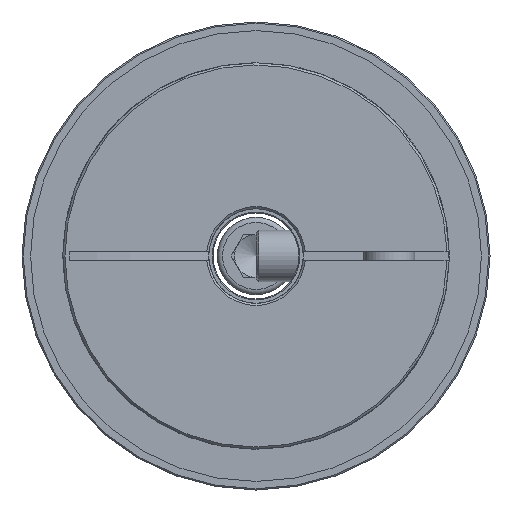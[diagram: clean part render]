
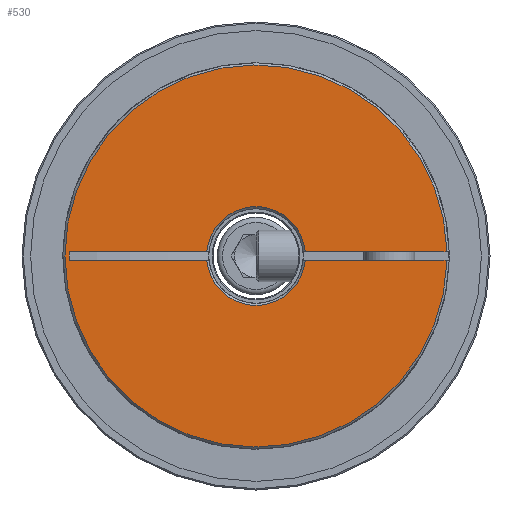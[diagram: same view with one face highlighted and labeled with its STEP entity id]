
A CAD part, left-side view. The second image highlights one B-rep face of the part: STEP entity #530.
In plain terms, the highlighted planar face has unit normal (-1, 0, 0).
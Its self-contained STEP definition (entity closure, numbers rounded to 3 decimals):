
#530 = ADVANCED_FACE( 'NONE', ( #1103 ), #1104, .F. );
#1103 = FACE_OUTER_BOUND( '', #1661, .T. );
#1104 = PLANE( '', #1662 );
#1661 = EDGE_LOOP( '', ( #2627, #2628, #2629, #2630, #2631, #2632, #2633, #2634 ) );
#1662 = AXIS2_PLACEMENT_3D( '', #2635, #2636, #2637 );
#2627 = ORIENTED_EDGE( '', *, *, #3128, .T. );
#2628 = ORIENTED_EDGE( '', *, *, #3129, .T. );
#2629 = ORIENTED_EDGE( '', *, *, #3130, .T. );
#2630 = ORIENTED_EDGE( '', *, *, #3099, .T. );
#2631 = ORIENTED_EDGE( '', *, *, #3124, .F. );
#2632 = ORIENTED_EDGE( '', *, *, #3131, .T. );
#2633 = ORIENTED_EDGE( '', *, *, #3132, .F. );
#2634 = ORIENTED_EDGE( '', *, *, #3133, .T. );
#2635 = CARTESIAN_POINT( '', ( 0., 11., 0. ) );
#2636 = DIRECTION( '', ( 1., 0., 0. ) );
#2637 = DIRECTION( '', ( 0., 1., 0. ) );
#3099 = EDGE_CURVE( 'NONE', #3547, #3548, #3549, .F. );
#3124 = EDGE_CURVE( 'NONE', #3593, #3548, #3595, .F. );
#3128 = EDGE_CURVE( 'NONE', #3601, #3602, #3603, .T. );
#3129 = EDGE_CURVE( 'NONE', #3602, #3604, #3605, .T. );
#3130 = EDGE_CURVE( 'NONE', #3604, #3547, #3606, .T. );
#3131 = EDGE_CURVE( 'NONE', #3593, #3607, #3608, .T. );
#3132 = EDGE_CURVE( 'NONE', #3609, #3607, #3610, .F. );
#3133 = EDGE_CURVE( 'NONE', #3609, #3601, #3611, .T. );
#3547 = VERTEX_POINT( 'NONE', #4575 );
#3548 = VERTEX_POINT( 'NONE', #4576 );
#3549 = CIRCLE( '', #4577, 44.5 );
#3593 = VERTEX_POINT( 'NONE', #4736 );
#3595 = LINE( '', #4741, #4742 );
#3601 = VERTEX_POINT( 'NONE', #4750 );
#3602 = VERTEX_POINT( 'NONE', #4751 );
#3603 = LINE( '', #4752, #4753 );
#3604 = VERTEX_POINT( 'NONE', #4754 );
#3605 = CIRCLE( '', #4755, 11.5 );
#3606 = LINE( '', #4756, #4757 );
#3607 = VERTEX_POINT( 'NONE', #4758 );
#3608 = CIRCLE( '', #4759, 11.5 );
#3609 = VERTEX_POINT( 'NONE', #4760 );
#3610 = LINE( '', #4761, #4762 );
#3611 = LINE( '', #4763, #4764 );
#4575 = CARTESIAN_POINT( '', ( 0., -44.489, 1. ) );
#4576 = CARTESIAN_POINT( '', ( 0., -44.489, -1. ) );
#4577 = AXIS2_PLACEMENT_3D( '', #5380, #5381, #5382 );
#4736 = CARTESIAN_POINT( '', ( 0., -11.456, -1. ) );
#4741 = CARTESIAN_POINT( '', ( 0., -9., -1. ) );
#4742 = VECTOR( '', #5426, 1000. );
#4750 = CARTESIAN_POINT( '', ( 0., 43.508, 1. ) );
#4751 = CARTESIAN_POINT( '', ( 0., 11.456, 1. ) );
#4752 = CARTESIAN_POINT( '', ( 0., 11., 1. ) );
#4753 = VECTOR( '', #5432, 1000. );
#4754 = CARTESIAN_POINT( '', ( 0., -11.456, 1. ) );
#4755 = AXIS2_PLACEMENT_3D( '', #5433, #5434, #5435 );
#4756 = CARTESIAN_POINT( '', ( 0., 11., 1. ) );
#4757 = VECTOR( '', #5436, 1000. );
#4758 = CARTESIAN_POINT( '', ( 0., 11.456, -1. ) );
#4759 = AXIS2_PLACEMENT_3D( '', #5437, #5438, #5439 );
#4760 = CARTESIAN_POINT( '', ( 0., 43.508, -1. ) );
#4761 = CARTESIAN_POINT( '', ( 0., -9., -1. ) );
#4762 = VECTOR( '', #5440, 1000. );
#4763 = CARTESIAN_POINT( '', ( 0., 43.508, -1. ) );
#4764 = VECTOR( '', #5441, 1000. );
#5380 = CARTESIAN_POINT( '', ( 0., 0., 0. ) );
#5381 = DIRECTION( '', ( 1., 0., 0. ) );
#5382 = DIRECTION( '', ( 0., 0., -1. ) );
#5426 = DIRECTION( '', ( 0., 1., 0. ) );
#5432 = DIRECTION( '', ( 0., -1., 0. ) );
#5433 = CARTESIAN_POINT( '', ( 0., 0., 0. ) );
#5434 = DIRECTION( '', ( 1., 0., 0. ) );
#5435 = DIRECTION( '', ( 0., 0., -1. ) );
#5436 = DIRECTION( '', ( 0., -1., 0. ) );
#5437 = CARTESIAN_POINT( '', ( 0., 0., 0. ) );
#5438 = DIRECTION( '', ( 1., 0., 0. ) );
#5439 = DIRECTION( '', ( 0., 0., -1. ) );
#5440 = DIRECTION( '', ( 0., 1., 0. ) );
#5441 = DIRECTION( '', ( 0., 0., 1. ) );
